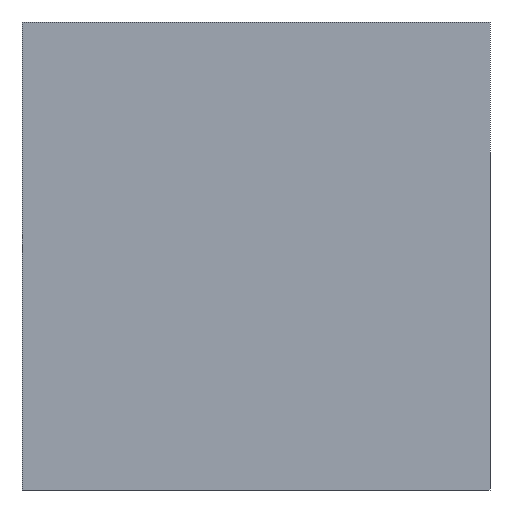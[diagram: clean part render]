
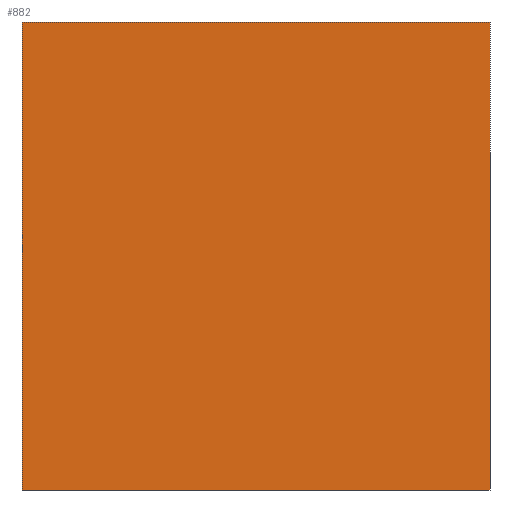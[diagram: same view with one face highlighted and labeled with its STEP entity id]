
A CAD part, front view. The second image highlights one B-rep face of the part: STEP entity #882.
In plain terms, the highlighted planar face has unit normal (0, -1, 0).
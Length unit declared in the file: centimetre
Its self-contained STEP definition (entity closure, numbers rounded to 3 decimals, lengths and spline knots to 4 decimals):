
#6 = VECTOR ( 'NONE', #367, 100. ) ;
#12 = LINE ( 'NONE', #425, #647 ) ;
#24 = CARTESIAN_POINT ( 'NONE',  ( 0., 0., 1000. ) ) ;
#97 = LINE ( 'NONE', #262, #661 ) ;
#129 = FACE_OUTER_BOUND ( 'NONE', #252, .T. ) ;
#206 = EDGE_CURVE ( 'NONE', #279, #663, #97, .T. ) ;
#252 = EDGE_LOOP ( 'NONE', ( #719, #734, #903, #847 ) ) ;
#262 = CARTESIAN_POINT ( 'NONE',  ( 0., 0., 1000. ) ) ;
#279 = VERTEX_POINT ( 'NONE', #24 ) ;
#347 = CARTESIAN_POINT ( 'NONE',  ( 0., 0., 0. ) ) ;
#350 = EDGE_CURVE ( 'NONE', #420, #683, #535, .T. ) ;
#367 = DIRECTION ( 'NONE',  ( 0., 0., -1. ) ) ;
#385 = VECTOR ( 'NONE', #908, 100. ) ;
#420 = VERTEX_POINT ( 'NONE', #525 ) ;
#425 = CARTESIAN_POINT ( 'NONE',  ( 0., 0., 1000. ) ) ;
#506 = DIRECTION ( 'NONE',  ( 1., 0., 0. ) ) ;
#525 = CARTESIAN_POINT ( 'NONE',  ( 1000., 0., 1000. ) ) ;
#535 = LINE ( 'NONE', #1025, #6 ) ;
#538 = AXIS2_PLACEMENT_3D ( 'NONE', #705, #791, #936 ) ;
#619 = PLANE ( 'NONE',  #538 ) ;
#647 = VECTOR ( 'NONE', #506, 100. ) ;
#661 = VECTOR ( 'NONE', #988, 100. ) ;
#662 = CARTESIAN_POINT ( 'NONE',  ( 0., 0., 0. ) ) ;
#663 = VERTEX_POINT ( 'NONE', #662 ) ;
#683 = VERTEX_POINT ( 'NONE', #1005 ) ;
#705 = CARTESIAN_POINT ( 'NONE',  ( 0., 0., 1000. ) ) ;
#709 = EDGE_CURVE ( 'NONE', #663, #683, #995, .T. ) ;
#719 = ORIENTED_EDGE ( 'NONE', *, *, #709, .T. ) ;
#734 = ORIENTED_EDGE ( 'NONE', *, *, #350, .F. ) ;
#749 = EDGE_CURVE ( 'NONE', #279, #420, #12, .T. ) ;
#791 = DIRECTION ( 'NONE',  ( 0., 1., 0. ) ) ;
#847 = ORIENTED_EDGE ( 'NONE', *, *, #206, .T. ) ;
#882 = ADVANCED_FACE ( 'NONE', ( #129 ), #619, .F. ) ;
#903 = ORIENTED_EDGE ( 'NONE', *, *, #749, .F. ) ;
#908 = DIRECTION ( 'NONE',  ( 1., 0., 0. ) ) ;
#936 = DIRECTION ( 'NONE',  ( 0., 0., 1. ) ) ;
#988 = DIRECTION ( 'NONE',  ( 0., 0., -1. ) ) ;
#995 = LINE ( 'NONE', #347, #385 ) ;
#1005 = CARTESIAN_POINT ( 'NONE',  ( 1000., 0., 0. ) ) ;
#1025 = CARTESIAN_POINT ( 'NONE',  ( 1000., 0., 1000. ) ) ;
